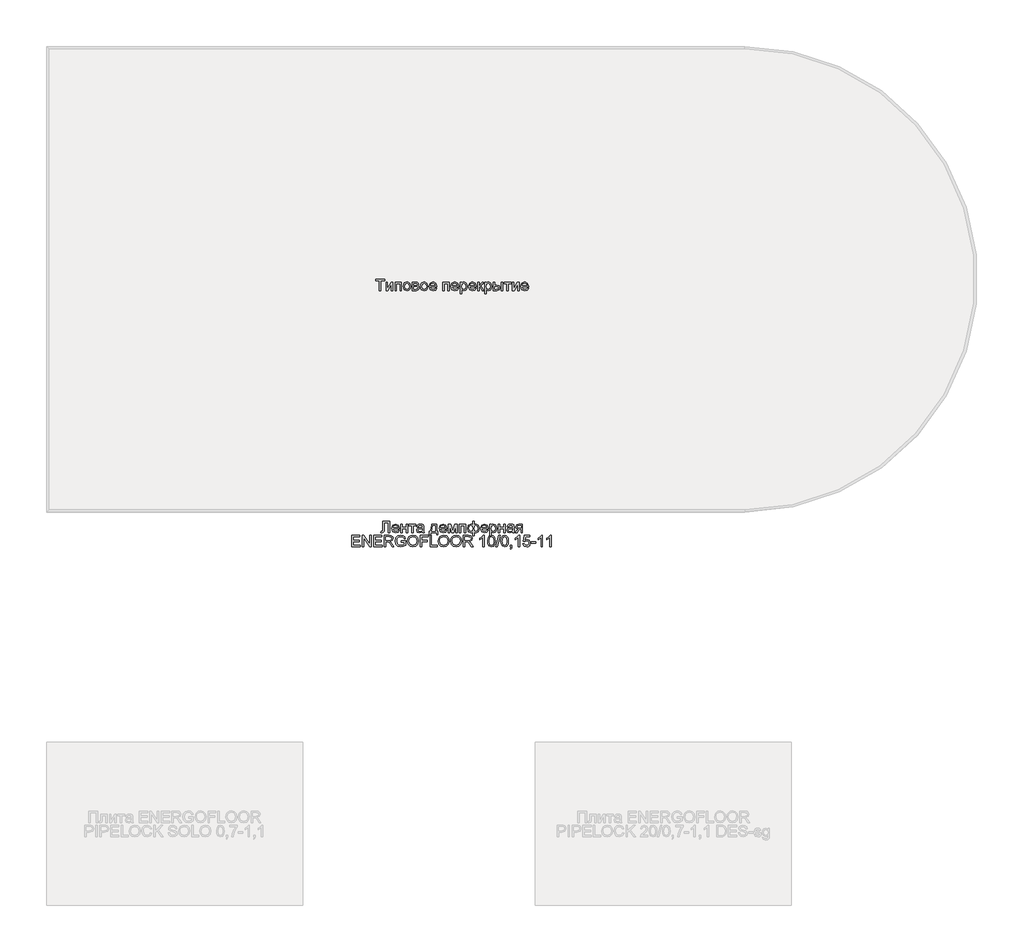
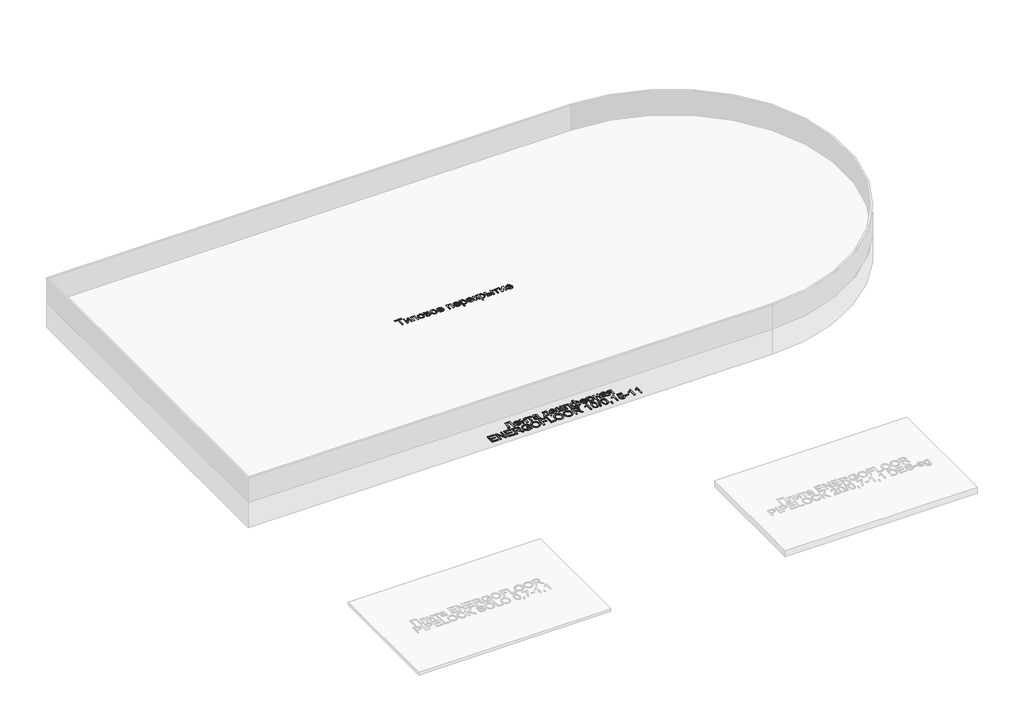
# One storey, part 7 of 7: 2 proxies.
"""IFC4 building model written with IfcOpenShell, lengths in millimetres."""

import ifcopenshell
import ifcopenshell.guid

model = None  # the IFC model being written
_history = None  # IfcOwnerHistory: only IFC2X3 demands one
_inside = {}  # id of a spatial element -> (the spatial element, [elements in it])
_under = {}  # id of a project, library or spatial element -> (it, [spatial elements below it])
_declared = {}  # id of a project -> (the project, [libraries it declares])
_typed = {}  # id of a type object -> (the type object, [elements of that type])
_made_of = {}  # id of a material, layer set ... -> (it, [elements and type objects made of it])


def new_model(schema):
    """Start an empty IFC model of exactly this schema.

    Asked for "IFC4X3", IfcOpenShell would pick the latest addendum, in which some entities
    have other attributes; the version numbers below select the first issue.
    IFC2X3 requires an IfcOwnerHistory on every rooted entity: one is made here for all.
    """
    global model, _history
    if schema == "IFC4X3":
        model = ifcopenshell.file(schema_version=(4, 3, 0, 0))
    else:
        model = ifcopenshell.file(schema=schema)
    _inside.clear()
    _under.clear()
    _declared.clear()
    _typed.clear()
    _made_of.clear()
    _history = None
    if model.schema == "IFC2X3":
        org = make("IfcOrganization", Name="unknown")
        user = make(
            "IfcPersonAndOrganization",
            ThePerson=make("IfcPerson", FamilyName="unknown"),
            TheOrganization=org,
        )
        app = make(
            "IfcApplication",
            ApplicationDeveloper=org,
            Version="unknown",
            ApplicationFullName="unknown",
            ApplicationIdentifier="unknown",
        )
        _history = make(
            "IfcOwnerHistory",
            OwningUser=user,
            OwningApplication=app,
            ChangeAction="ADDED",
            CreationDate=0,
        )
    return model


def make(cls, **values):
    """One entity of the class cls with the attributes given. An attribute that is None is left unset."""
    return model.create_entity(
        cls, **{name: value for name, value in values.items() if value is not None}
    )


def rooted(cls, **values):
    """An entity with a GlobalId (a new one), such as an element, a storey or a relation."""
    return make(cls, GlobalId=ifcopenshell.guid.new(), OwnerHistory=_history, **values)


def si_unit(unit_type, name, prefix=None):
    """IfcSIUnit, for example si_unit("LENGTHUNIT", "METRE", prefix="MILLI")."""
    return make("IfcSIUnit", UnitType=unit_type, Prefix=prefix, Name=name)


def assignment(units):
    """IfcUnitAssignment: the units of a project."""
    return None if units is None else make("IfcUnitAssignment", Units=units)


def point(xyz):
    """IfcCartesianPoint."""
    return None if xyz is None else make("IfcCartesianPoint", Coordinates=xyz)


def direction(xyz):
    """IfcDirection."""
    return None if xyz is None else make("IfcDirection", DirectionRatios=xyz)


def frame(location, z_axis=None, x_axis=None):
    """IfcAxis2Placement3D, a coordinate frame: its origin and axes. An axis left out is left unset."""
    return make(
        "IfcAxis2Placement3D",
        Location=point(location),
        Axis=direction(z_axis),
        RefDirection=direction(x_axis),
    )


def origin():
    """The frame at (0, 0, 0) with its axes left unset."""
    return frame((0.0, 0.0, 0.0))


def origin_with_axes():
    """The frame at (0, 0, 0) with the z axis (0, 0, 1) and the x axis (1, 0, 0) written out."""
    return frame((0.0, 0.0, 0.0), z_axis=(0.0, 0.0, 1.0), x_axis=(1.0, 0.0, 0.0))


def place(relative_to, where):
    """IfcLocalPlacement: puts the frame where relative to a parent placement (None: the world)."""
    return make(
        "IfcLocalPlacement", PlacementRelTo=relative_to, RelativePlacement=where
    )


def context(
    kind, dimensions, precision=None, world=None, true_north=None, identifier=None
):
    """IfcGeometricRepresentationContext, for example the 3D "Model" context."""
    return make(
        "IfcGeometricRepresentationContext",
        ContextIdentifier=identifier,
        ContextType=kind,
        CoordinateSpaceDimension=dimensions,
        Precision=precision,
        WorldCoordinateSystem=world,
        TrueNorth=true_north,
    )


def project(units=None, contexts=None):
    """IfcProject with its units and contexts."""
    return rooted(
        "IfcProject",
        Name="project",
        RepresentationContexts=contexts,
        UnitsInContext=assignment(units),
    )


def spatial(cls, under=None, at=None, **own):
    """A site, building, storey or space (cls), placed at a placement, below another one or the project."""
    s = rooted(cls, ObjectPlacement=at, **own)
    if under is not None:
        _under.setdefault(under.id(), (under, []))[1].append(s)
    return s


def polyline(points):
    """IfcPolyline through the points."""
    return make("IfcPolyline", Points=[point(p) for p in points])


def outline(outer, holes=None, kind="AREA"):
    """IfcArbitraryClosedProfileDef: a profile drawn as a closed curve; with holes, ...WithVoids."""
    if holes is None:
        return make("IfcArbitraryClosedProfileDef", ProfileType=kind, OuterCurve=outer)
    return make(
        "IfcArbitraryProfileDefWithVoids",
        ProfileType=kind,
        OuterCurve=outer,
        InnerCurves=holes,
    )


def extrude(swept, where, along, depth):
    """IfcExtrudedAreaSolid: the profile swept, set in the frame where, extruded along a direction by depth."""
    return make(
        "IfcExtrudedAreaSolid",
        SweptArea=swept,
        Position=where,
        ExtrudedDirection=direction(along),
        Depth=depth,
    )


def shape(context_of_items, identifier, shape_type, items):
    """IfcShapeRepresentation: the items that make up one representation, for example the "Body"."""
    return make(
        "IfcShapeRepresentation",
        ContextOfItems=context_of_items,
        RepresentationIdentifier=identifier,
        RepresentationType=shape_type,
        Items=items,
    )


def made_of(thing, what):
    """Note that an element or type object is made of a material, layer set ...; save() writes the relation."""
    if what is not None:
        _made_of.setdefault(what.id(), (what, []))[1].append(thing)
    return thing


def element(
    cls,
    number,
    at=None,
    inside=None,
    cuts=None,
    type_object=None,
    material=None,
    context=None,
    identifier="Body",
    shape_type=None,
    held_by="IfcProductDefinitionShape",
    body=None,
    shapes=None,
    **own,
):
    """One element of the class cls, such as IfcWall. Its Tag is "e" and its number.

    at: its placement. inside: the storey or other place that contains it. cuts: it is an
    opening in that element (IfcRelVoidsElement). A single representation is given by context,
    identifier, shape_type and body (its items); several are given by shapes. held_by: the class
    of the entity that holds the representations. save() writes the other relations.
    """
    e = rooted(cls, Tag="e%d" % number, ObjectPlacement=at, **own)
    if body is not None:
        shapes = [shape(context, identifier, shape_type, body)]
    if shapes is not None:
        e.Representation = make(held_by, Representations=shapes)
    if inside is not None:
        _inside.setdefault(inside.id(), (inside, []))[1].append(e)
    if cuts is not None:
        rooted(
            "IfcRelVoidsElement", RelatingBuildingElement=cuts, RelatedOpeningElement=e
        )
    if type_object is not None:
        _typed.setdefault(type_object.id(), (type_object, []))[1].append(e)
    return made_of(e, material)


def aggregate(whole, parts):
    """IfcRelAggregates: a whole, such as a stair, and the parts it consists of."""
    return rooted("IfcRelAggregates", RelatingObject=whole, RelatedObjects=parts)


def save(model, path):
    """Write the relations noted so far, then the file.

    IfcRelAggregates (storeys below a building ...), IfcRelContainedInSpatialStructure (elements
    in a storey), IfcRelDefinesByType, IfcRelAssociatesMaterial and IfcRelDeclares: one each for
    every whole, place, type object, material and project.
    """
    for whole, parts in _under.values():
        aggregate(whole, parts)
    for where, things in _inside.values():
        rooted(
            "IfcRelContainedInSpatialStructure",
            RelatedElements=things,
            RelatingStructure=where,
        )
    for kind, things in _typed.values():
        rooted("IfcRelDefinesByType", RelatedObjects=things, RelatingType=kind)
    for what, things in _made_of.values():
        rooted("IfcRelAssociatesMaterial", RelatedObjects=things, RelatingMaterial=what)
    for by, libraries in _declared.values():
        rooted("IfcRelDeclares", RelatingContext=by, RelatedDefinitions=libraries)
    model.write(path)


model = new_model("IFC4")

# Units and contexts
model_context = context("Model", 3, world=origin())
ifc_project = project(units=[si_unit("LENGTHUNIT", "METRE", prefix="MILLI")], contexts=[model_context])

# Site, building, storey
site = spatial("IfcSite", under=ifc_project)
building = spatial("IfcBuilding", under=site)
storey = spatial("IfcBuildingStorey", under=building, Name="Уровень 1", Elevation=0.0)

# Proxies
placement = place(None, origin())
element("IfcBuildingElementProxy", 1, Name="Текст модели ROLS ISOMARKET", ObjectType="Текст модели ROLS ISOMARKET", at=placement, inside=storey, context=model_context, shape_type="SweptSolid", body=[
    extrude(outline(polyline([(-15670.4197244, 12752.8888122), (-15640.4197244, 12752.8888122), (-15640.4197244, 12703.658043), (-15646.5735706, 12703.658043), (-15646.5735706, 12746.7349661), (-15664.2658783, 12746.7349661), (-15664.2658783, 12721.6147738), (-15664.9810225, 12710.4068411), (-15667.9798206, 12704.8659757), (-15673.7730898, 12702.8888122), (-15678.8812629, 12703.658043), (-15678.1120321, 12709.8118892), (-15675.1673206, 12709.0426584), (-15671.6036187, 12710.6953026), (-15670.4197244, 12718.4777545), (-15670.4197244, 12752.8888122)])), origin_with_axes(), (0.0, 0.0, 1.0), 2.0),
    extrude(outline(polyline([(-15605.1072244, 12714.4272738), (-15599.0735706, 12713.658043), (-15604.7165994, 12705.7133315), (-15615.2274167, 12702.8888122), (-15628.003859, 12707.7626103), (-15632.7274167, 12721.4344853), (-15627.9557821, 12735.5570815), (-15615.5759744, 12740.5811199), (-15603.550734, 12735.5691007), (-15598.8812629, 12721.470543), (-15598.9173206, 12719.8118892), (-15626.5735706, 12719.8118892), (-15623.0339071, 12711.8191007), (-15615.1072244, 12709.0426584), (-15609.0735706, 12710.3287161), (-15605.1072244, 12714.4272738)]), holes=[polyline([(-15626.5735706, 12725.9657353), (-15605.035109, 12725.9657353), (-15607.4990513, 12731.5426584), (-15615.6000129, 12734.4272738), (-15623.1781379, 12732.1255911), (-15626.5735706, 12725.9657353)])]), origin_with_axes(), (0.0, 0.0, 1.0), 2.0),
    extrude(outline(polyline([(-15592.7274167, 12739.8118892), (-15586.5735706, 12739.8118892), (-15586.5735706, 12725.9657353), (-15570.4197244, 12725.9657353), (-15570.4197244, 12739.8118892), (-15564.2658783, 12739.8118892), (-15564.2658783, 12703.658043), (-15570.4197244, 12703.658043), (-15570.4197244, 12719.8118892), (-15586.5735706, 12719.8118892), (-15586.5735706, 12703.658043), (-15592.7274167, 12703.658043), (-15592.7274167, 12739.8118892)])), origin_with_axes(), (0.0, 0.0, 1.0), 2.0),
    extrude(outline(polyline([(-15558.1120321, 12739.8118892), (-15528.8812629, 12739.8118892), (-15528.8812629, 12733.658043), (-15540.4197244, 12733.658043), (-15540.4197244, 12703.658043), (-15546.5735706, 12703.658043), (-15546.5735706, 12733.658043), (-15558.1120321, 12733.658043), (-15558.1120321, 12739.8118892)])), origin_with_axes(), (0.0, 0.0, 1.0), 2.0),
    extrude(outline(polyline([(-15500.4197244, 12708.2734276), (-15506.3872725, 12704.1027545), (-15512.9798206, 12702.8888122), (-15521.9161187, 12705.8094853), (-15525.035109, 12713.2734276), (-15523.8572244, 12718.1412161), (-15520.7622725, 12721.6748699), (-15516.4533783, 12723.6941007), (-15511.128859, 12724.6195815), (-15500.4557821, 12726.7349661), (-15502.114436, 12732.6484276), (-15508.9173206, 12734.4272738), (-15515.1432821, 12733.2433795), (-15518.1120321, 12729.0426584), (-15524.2658783, 12729.8118892), (-15521.6036187, 12735.8215045), (-15516.2430417, 12739.3431392), (-15508.1240513, 12740.5811199), (-15500.6661187, 12739.4873699), (-15496.4533783, 12736.7409757), (-15494.566359, 12732.564293), (-15494.2658783, 12727.1796776), (-15494.2658783, 12719.5234276), (-15493.9533783, 12708.8323218), (-15492.7274167, 12703.658043), (-15498.8812629, 12703.658043), (-15500.4197244, 12708.2734276)]), holes=[polyline([(-15500.4197244, 12720.5811199), (-15510.347609, 12718.6941007), (-15515.6420802, 12717.6965045), (-15518.0399167, 12716.0739084), (-15518.8812629, 12713.7061199), (-15517.0483302, 12710.376793), (-15511.6697244, 12709.0426584), (-15505.4437629, 12710.5150142), (-15501.4293398, 12714.0787161), (-15500.4557821, 12718.8383315), (-15500.4197244, 12720.5811199)])]), origin_with_axes(), (0.0, 0.0, 1.0), 2.0),
    extrude(outline(polyline([(-15461.1889552, 12739.8118892), (-15438.1120321, 12739.8118892), (-15438.1120321, 12709.8118892), (-15433.4966475, 12709.8118892), (-15433.4966475, 12693.658043), (-15439.6504937, 12693.658043), (-15439.6504937, 12703.658043), (-15465.035109, 12703.658043), (-15465.035109, 12693.658043), (-15471.1889552, 12693.658043), (-15471.1889552, 12709.8118892), (-15467.3428013, 12709.8118892), (-15462.5891956, 12721.548668), (-15461.1889552, 12739.8118892)]), holes=[polyline([(-15455.8043398, 12733.658043), (-15460.4197244, 12709.8118892), (-15444.2658783, 12709.8118892), (-15444.2658783, 12733.658043), (-15455.8043398, 12733.658043)])]), origin_with_axes(), (0.0, 0.0, 1.0), 2.0),
    extrude(outline(polyline([(-15401.2610706, 12714.4272738), (-15395.2274167, 12713.658043), (-15400.8704456, 12705.7133315), (-15411.3812629, 12702.8888122), (-15424.1577052, 12707.7626103), (-15428.8812629, 12721.4344853), (-15424.1096283, 12735.5570815), (-15411.7298206, 12740.5811199), (-15399.7045802, 12735.5691007), (-15395.035109, 12721.470543), (-15395.0711667, 12719.8118892), (-15422.7274167, 12719.8118892), (-15419.1877533, 12711.8191007), (-15411.2610706, 12709.0426584), (-15405.2274167, 12710.3287161), (-15401.2610706, 12714.4272738)]), holes=[polyline([(-15422.7274167, 12725.9657353), (-15401.1889552, 12725.9657353), (-15403.6528975, 12731.5426584), (-15411.753859, 12734.4272738), (-15419.331984, 12732.1255911), (-15422.7274167, 12725.9657353)])]), origin_with_axes(), (0.0, 0.0, 1.0), 2.0),
    extrude(outline(polyline([(-15388.8812629, 12739.8118892), (-15378.2923206, 12739.8118892), (-15370.1312629, 12710.8695815), (-15361.333186, 12739.8118892), (-15351.1889552, 12739.8118892), (-15351.1889552, 12703.658043), (-15357.3428013, 12703.658043), (-15357.3428013, 12732.7686199), (-15366.1889552, 12703.658043), (-15374.2658783, 12703.658043), (-15382.7274167, 12734.1628507), (-15382.7274167, 12703.658043), (-15388.8812629, 12703.658043), (-15388.8812629, 12739.8118892)])), origin_with_axes(), (0.0, 0.0, 1.0), 2.0),
    extrude(outline(polyline([(-15341.958186, 12739.8118892), (-15314.2658783, 12739.8118892), (-15314.2658783, 12703.658043), (-15320.4197244, 12703.658043), (-15320.4197244, 12733.658043), (-15335.8043398, 12733.658043), (-15335.8043398, 12703.658043), (-15341.958186, 12703.658043), (-15341.958186, 12739.8118892)])), origin_with_axes(), (0.0, 0.0, 1.0), 2.0),
    extrude(outline(polyline([(-15284.2658783, 12752.8888122), (-15278.1120321, 12752.8888122), (-15278.1120321, 12736.3383315), (-15274.1997725, 12739.5294372), (-15269.614436, 12740.5811199), (-15260.0891956, 12735.2325622), (-15256.5735706, 12721.7710238), (-15260.3596283, 12708.0991488), (-15269.770686, 12702.8888122), (-15273.5327052, 12703.4897738), (-15278.1120321, 12706.7710238), (-15278.1120321, 12689.8118892), (-15284.2658783, 12689.8118892), (-15284.2658783, 12706.7710238), (-15288.1961667, 12703.8623699), (-15292.847609, 12702.8888122), (-15302.4629937, 12707.8647738), (-15306.5735706, 12722.1075622), (-15302.8536187, 12735.2686199), (-15292.847609, 12740.5811199), (-15288.081984, 12739.5294372), (-15284.2658783, 12736.3383315), (-15284.2658783, 12752.8888122)]), holes=[polyline([(-15278.1480898, 12721.626793), (-15276.098811, 12711.6087642), (-15270.9605898, 12709.0426584), (-15265.1372725, 12712.1977065), (-15262.7274167, 12721.9993892), (-15264.9509744, 12731.3503507), (-15270.660109, 12734.4272738), (-15276.2670802, 12731.2241488), (-15278.1480898, 12721.626793)]), polyline([(-15300.4197244, 12722.2397738), (-15297.9557821, 12712.1316007), (-15291.8379937, 12709.0426584), (-15286.1228494, 12712.1135718), (-15284.2298206, 12721.3263122), (-15286.2190033, 12731.1520334), (-15292.222609, 12734.4272738), (-15298.1360706, 12731.2301584), (-15300.4197244, 12722.2397738)])]), origin_with_axes(), (0.0, 0.0, 1.0), 2.0),
    extrude(outline(polyline([(-15223.5687629, 12714.4272738), (-15217.535109, 12713.658043), (-15223.1781379, 12705.7133315), (-15233.6889552, 12702.8888122), (-15246.4653975, 12707.7626103), (-15251.1889552, 12721.4344853), (-15246.4173206, 12735.5570815), (-15234.0375129, 12740.5811199), (-15222.0122725, 12735.5691007), (-15217.3428013, 12721.470543), (-15217.378859, 12719.8118892), (-15245.035109, 12719.8118892), (-15241.4954456, 12711.8191007), (-15233.5687629, 12709.0426584), (-15227.535109, 12710.3287161), (-15223.5687629, 12714.4272738)]), holes=[polyline([(-15245.035109, 12725.9657353), (-15223.4966475, 12725.9657353), (-15225.9605898, 12731.5426584), (-15234.0615513, 12734.4272738), (-15241.6396763, 12732.1255911), (-15245.035109, 12725.9657353)])]), origin_with_axes(), (0.0, 0.0, 1.0), 2.0),
    extrude(outline(polyline([(-15211.1889552, 12689.8118892), (-15211.1889552, 12739.8118892), (-15205.035109, 12739.8118892), (-15205.035109, 12733.7782353), (-15200.7803013, 12738.8803988), (-15195.035109, 12740.5811199), (-15187.2346283, 12738.2013122), (-15182.1384744, 12731.4945815), (-15180.4197244, 12722.0114084), (-15182.3608302, 12712.0414565), (-15187.9978494, 12705.2505911), (-15195.7803013, 12702.8888122), (-15201.1348687, 12704.4693411), (-15205.035109, 12708.4657353), (-15205.035109, 12689.8118892), (-15211.1889552, 12689.8118892)]), holes=[polyline([(-15205.035109, 12721.4465045), (-15202.3728494, 12712.0715045), (-15195.9125129, 12709.0426584), (-15189.3199648, 12712.1796776), (-15186.5735706, 12721.9032353), (-15189.253859, 12731.3022738), (-15195.660109, 12734.4272738), (-15202.192561, 12731.1039565), (-15205.035109, 12721.4465045)])]), origin_with_axes(), (0.0, 0.0, 1.0), 2.0),
    extrude(outline(polyline([(-15173.4966475, 12739.8118892), (-15167.3428013, 12739.8118892), (-15167.3428013, 12725.9657353), (-15151.1889552, 12725.9657353), (-15151.1889552, 12739.8118892), (-15145.035109, 12739.8118892), (-15145.035109, 12703.658043), (-15151.1889552, 12703.658043), (-15151.1889552, 12719.8118892), (-15167.3428013, 12719.8118892), (-15167.3428013, 12703.658043), (-15173.4966475, 12703.658043), (-15173.4966475, 12739.8118892)])), origin_with_axes(), (0.0, 0.0, 1.0), 2.0),
    extrude(outline(polyline([(-15112.7274167, 12708.2734276), (-15118.6949648, 12704.1027545), (-15125.2875129, 12702.8888122), (-15134.223811, 12705.8094853), (-15137.3428013, 12713.2734276), (-15136.1649167, 12718.1412161), (-15133.0699648, 12721.6748699), (-15128.7610706, 12723.6941007), (-15123.4365513, 12724.6195815), (-15112.7634744, 12726.7349661), (-15114.4221283, 12732.6484276), (-15121.2250129, 12734.4272738), (-15127.4509744, 12733.2433795), (-15130.4197244, 12729.0426584), (-15136.5735706, 12729.8118892), (-15133.911311, 12735.8215045), (-15128.550734, 12739.3431392), (-15120.4317437, 12740.5811199), (-15112.973811, 12739.4873699), (-15108.7610706, 12736.7409757), (-15106.8740513, 12732.564293), (-15106.5735706, 12727.1796776), (-15106.5735706, 12719.5234276), (-15106.2610706, 12708.8323218), (-15105.035109, 12703.658043), (-15111.1889552, 12703.658043), (-15112.7274167, 12708.2734276)]), holes=[polyline([(-15112.7274167, 12720.5811199), (-15122.6553013, 12718.6941007), (-15127.9497725, 12717.6965045), (-15130.347609, 12716.0739084), (-15131.1889552, 12713.7061199), (-15129.3560225, 12710.376793), (-15123.9774167, 12709.0426584), (-15117.7514552, 12710.5150142), (-15113.7370321, 12714.0787161), (-15112.7634744, 12718.8383315), (-15112.7274167, 12720.5811199)])]), origin_with_axes(), (0.0, 0.0, 1.0), 2.0),
    extrude(outline(polyline([(-15070.4197244, 12739.8118892), (-15070.4197244, 12703.658043), (-15076.5735706, 12703.658043), (-15076.5735706, 12717.5041968), (-15079.926936, 12717.5041968), (-15084.4942437, 12716.7229468), (-15088.785109, 12711.470543), (-15093.6889552, 12703.658043), (-15100.8043398, 12703.658043), (-15094.6264552, 12713.5378507), (-15089.3860706, 12718.658043), (-15096.5495321, 12722.3960238), (-15098.8812629, 12729.3671776), (-15095.6961667, 12736.9152545), (-15086.4774167, 12739.8118892), (-15070.4197244, 12739.8118892)]), holes=[polyline([(-15076.5735706, 12733.658043), (-15084.6865513, 12733.658043), (-15091.255061, 12732.2337642), (-15092.7274167, 12728.8984276), (-15090.5579456, 12724.9260718), (-15082.8716475, 12723.658043), (-15076.5735706, 12723.658043), (-15076.5735706, 12733.658043)])]), origin_with_axes(), (0.0, 0.0, 1.0), 2.0),
    extrude(outline(polyline([(-15804.6504937, 12642.8888122), (-15804.6504937, 12692.1195815), (-15769.2658783, 12692.1195815), (-15769.2658783, 12685.9657353), (-15798.4966475, 12685.9657353), (-15798.4966475, 12671.3503507), (-15770.8043398, 12671.3503507), (-15770.8043398, 12665.1965045), (-15798.4966475, 12665.1965045), (-15798.4966475, 12649.0426584), (-15768.4966475, 12649.0426584), (-15768.4966475, 12642.8888122), (-15804.6504937, 12642.8888122)])), origin_with_axes(), (0.0, 0.0, 1.0), 2.0),
    extrude(outline(polyline([(-15759.2658783, 12642.8888122), (-15759.2658783, 12692.1195815), (-15752.6793398, 12692.1195815), (-15726.958186, 12653.1171776), (-15726.958186, 12692.1195815), (-15720.8043398, 12692.1195815), (-15720.8043398, 12642.8888122), (-15727.3908783, 12642.8888122), (-15753.1120321, 12681.9032353), (-15753.1120321, 12642.8888122), (-15759.2658783, 12642.8888122)])), origin_with_axes(), (0.0, 0.0, 1.0), 2.0),
    extrude(outline(polyline([(-15710.035109, 12642.8888122), (-15710.035109, 12692.1195815), (-15674.6504937, 12692.1195815), (-15674.6504937, 12685.9657353), (-15703.8812629, 12685.9657353), (-15703.8812629, 12671.3503507), (-15676.1889552, 12671.3503507), (-15676.1889552, 12665.1965045), (-15703.8812629, 12665.1965045), (-15703.8812629, 12649.0426584), (-15673.8812629, 12649.0426584), (-15673.8812629, 12642.8888122), (-15710.035109, 12642.8888122)])), origin_with_axes(), (0.0, 0.0, 1.0), 2.0),
    extrude(outline(polyline([(-15664.6504937, 12642.8888122), (-15664.6504937, 12692.1195815), (-15643.4365513, 12692.1195815), (-15633.5867917, 12690.7914565), (-15628.2021763, 12686.0919372), (-15626.1889552, 12678.6460238), (-15629.5242917, 12669.7758315), (-15639.8307821, 12665.1965045), (-15636.333186, 12662.564293), (-15631.3452052, 12656.2301584), (-15623.1360706, 12642.8888122), (-15630.2875129, 12642.8888122), (-15636.6937629, 12653.0931392), (-15641.3211667, 12659.8479468), (-15644.5723687, 12663.0390526), (-15647.4990513, 12664.2109276), (-15651.0687629, 12664.4272738), (-15658.4966475, 12664.4272738), (-15658.4966475, 12642.8888122), (-15664.6504937, 12642.8888122)]), holes=[polyline([(-15658.4966475, 12670.5811199), (-15644.722609, 12670.5811199), (-15637.6973687, 12671.4525142), (-15633.706984, 12674.2409757), (-15632.3428013, 12678.4176584), (-15634.9449648, 12683.8383315), (-15643.1721283, 12685.9657353), (-15658.4966475, 12685.9657353), (-15658.4966475, 12670.5811199)])]), origin_with_axes(), (0.0, 0.0, 1.0), 2.0),
    extrude(outline(polyline([(-15592.3428013, 12662.1195815), (-15592.3428013, 12668.2734276), (-15572.3428013, 12668.2734276), (-15572.3428013, 12649.8719853), (-15582.2165994, 12644.0666968), (-15592.6553013, 12642.1195815), (-15605.7983302, 12645.2145334), (-15614.7165994, 12654.1748699), (-15617.7274167, 12667.2638122), (-15614.7286187, 12680.6472257), (-15606.1048206, 12689.8719853), (-15593.1480898, 12692.8888122), (-15583.520686, 12691.1400142), (-15576.7718879, 12686.2722257), (-15573.051936, 12678.1291968), (-15578.7250129, 12676.5306392), (-15581.5315033, 12682.2217449), (-15586.3271763, 12685.5029949), (-15593.2442437, 12686.7349661), (-15601.1228494, 12685.4068411), (-15606.4834263, 12681.9212642), (-15609.6504937, 12677.1796776), (-15611.5735706, 12667.5162161), (-15609.2598687, 12656.7890526), (-15602.5290994, 12650.3707834), (-15593.1480898, 12648.2734276), (-15584.7286187, 12649.8539565), (-15578.4966475, 12653.2253507), (-15578.4966475, 12662.1195815), (-15592.3428013, 12662.1195815)])), origin_with_axes(), (0.0, 0.0, 1.0), 2.0),
    extrude(outline(polyline([(-15564.6504937, 12666.8551584), (-15563.0098687, 12677.7415767), (-15558.0879937, 12685.9777545), (-15550.5729696, 12691.1610478), (-15541.1528975, 12692.8888122), (-15528.9053013, 12689.6436199), (-15520.5879937, 12680.5931392), (-15517.7274167, 12667.4200622), (-15520.738234, 12654.0666968), (-15529.2718879, 12645.1484276), (-15541.1889552, 12642.1195815), (-15553.5687629, 12645.4669372), (-15561.8379937, 12654.6015526), (-15564.6504937, 12666.8551584)]), holes=[polyline([(-15558.4966475, 12666.7950622), (-15553.5747725, 12653.2253507), (-15541.2250129, 12648.2734276), (-15528.7670802, 12653.2734276), (-15523.8812629, 12667.4681392), (-15525.972609, 12677.6243892), (-15532.0843879, 12684.3491488), (-15541.1168398, 12686.7349661), (-15553.364436, 12682.1376103), (-15557.2135946, 12676.0032954), (-15558.4966475, 12666.7950622)])]), origin_with_axes(), (0.0, 0.0, 1.0), 2.0),
    extrude(outline(polyline([(-15509.2658783, 12642.8888122), (-15509.2658783, 12692.1195815), (-15476.1889552, 12692.1195815), (-15476.1889552, 12685.9657353), (-15503.1120321, 12685.9657353), (-15503.1120321, 12671.3503507), (-15480.035109, 12671.3503507), (-15480.035109, 12665.1965045), (-15503.1120321, 12665.1965045), (-15503.1120321, 12642.8888122), (-15509.2658783, 12642.8888122)])), origin_with_axes(), (0.0, 0.0, 1.0), 2.0),
    extrude(outline(polyline([(-15467.7274167, 12642.8888122), (-15467.7274167, 12692.1195815), (-15461.5735706, 12692.1195815), (-15461.5735706, 12649.0426584), (-15436.958186, 12649.0426584), (-15436.958186, 12642.8888122), (-15467.7274167, 12642.8888122)])), origin_with_axes(), (0.0, 0.0, 1.0), 2.0),
    extrude(outline(polyline([(-15432.3428013, 12666.8551584), (-15430.7021763, 12677.7415767), (-15425.7803013, 12685.9777545), (-15418.2652773, 12691.1610478), (-15408.8452052, 12692.8888122), (-15396.597609, 12689.6436199), (-15388.2803013, 12680.5931392), (-15385.4197244, 12667.4200622), (-15388.4305417, 12654.0666968), (-15396.9641956, 12645.1484276), (-15408.8812629, 12642.1195815), (-15421.2610706, 12645.4669372), (-15429.5303013, 12654.6015526), (-15432.3428013, 12666.8551584)]), holes=[polyline([(-15426.1889552, 12666.7950622), (-15421.2670802, 12653.2253507), (-15408.9173206, 12648.2734276), (-15396.4593879, 12653.2734276), (-15391.5735706, 12667.4681392), (-15393.6649167, 12677.6243892), (-15399.7766956, 12684.3491488), (-15408.8091475, 12686.7349661), (-15421.0567437, 12682.1376103), (-15424.9059023, 12676.0032954), (-15426.1889552, 12666.7950622)])]), origin_with_axes(), (0.0, 0.0, 1.0), 2.0),
    extrude(outline(polyline([(-15379.2658783, 12666.8551584), (-15377.6252533, 12677.7415767), (-15372.7033783, 12685.9777545), (-15365.1883542, 12691.1610478), (-15355.7682821, 12692.8888122), (-15343.520686, 12689.6436199), (-15335.2033783, 12680.5931392), (-15332.3428013, 12667.4200622), (-15335.3536187, 12654.0666968), (-15343.8872725, 12645.1484276), (-15355.8043398, 12642.1195815), (-15368.1841475, 12645.4669372), (-15376.4533783, 12654.6015526), (-15379.2658783, 12666.8551584)]), holes=[polyline([(-15373.1120321, 12666.7950622), (-15368.1901571, 12653.2253507), (-15355.8403975, 12648.2734276), (-15343.3824648, 12653.2734276), (-15338.4966475, 12667.4681392), (-15340.5879937, 12677.6243892), (-15346.6997725, 12684.3491488), (-15355.7322244, 12686.7349661), (-15367.9798206, 12682.1376103), (-15371.8289792, 12676.0032954), (-15373.1120321, 12666.7950622)])]), origin_with_axes(), (0.0, 0.0, 1.0), 2.0),
    extrude(outline(polyline([(-15323.8812629, 12642.8888122), (-15323.8812629, 12692.1195815), (-15302.6673206, 12692.1195815), (-15292.817561, 12690.7914565), (-15287.4329456, 12686.0919372), (-15285.4197244, 12678.6460238), (-15288.755061, 12669.7758315), (-15299.0615513, 12665.1965045), (-15295.5639552, 12662.564293), (-15290.5759744, 12656.2301584), (-15282.3668398, 12642.8888122), (-15289.5182821, 12642.8888122), (-15295.9245321, 12653.0931392), (-15300.551936, 12659.8479468), (-15303.8031379, 12663.0390526), (-15306.7298206, 12664.2109276), (-15310.2995321, 12664.4272738), (-15317.7274167, 12664.4272738), (-15317.7274167, 12642.8888122), (-15323.8812629, 12642.8888122)]), holes=[polyline([(-15317.7274167, 12670.5811199), (-15303.9533783, 12670.5811199), (-15296.9281379, 12671.4525142), (-15292.9377533, 12674.2409757), (-15291.5735706, 12678.4176584), (-15294.175734, 12683.8383315), (-15302.4028975, 12685.9657353), (-15317.7274167, 12685.9657353), (-15317.7274167, 12670.5811199)])]), origin_with_axes(), (0.0, 0.0, 1.0), 2.0),
    extrude(outline(polyline([(-15234.6504937, 12642.8888122), (-15240.8043398, 12642.8888122), (-15240.8043398, 12681.2541968), (-15246.6336667, 12677.1015526), (-15253.1120321, 12673.9945815), (-15253.1120321, 12679.8118892), (-15244.0915994, 12685.5691007), (-15238.6168398, 12692.1195815), (-15234.6504937, 12692.1195815), (-15234.6504937, 12642.8888122)])), origin_with_axes(), (0.0, 0.0, 1.0), 2.0),
    extrude(outline(polyline([(-15220.035109, 12667.1075622), (-15218.2262148, 12681.2722257), (-15212.8536187, 12689.439293), (-15203.8812629, 12692.1195815), (-15196.6937629, 12690.533043), (-15191.7298206, 12685.9597257), (-15188.8452052, 12678.6760718), (-15187.7274167, 12667.1075622), (-15189.5182821, 12653.0029949), (-15194.8728494, 12644.8178988), (-15203.8812629, 12642.1195815), (-15215.1312629, 12646.8070815), (-15218.8091475, 12655.1334036), (-15220.035109, 12667.1075622)]), holes=[polyline([(-15213.8812629, 12667.1195815), (-15210.9966475, 12651.8371295), (-15203.8812629, 12648.2734276), (-15196.7658783, 12651.8491488), (-15193.8812629, 12667.1195815), (-15196.6697244, 12682.2277545), (-15203.9533783, 12685.9657353), (-15210.9004937, 12682.6724661), (-15213.8812629, 12667.1195815)])]), origin_with_axes(), (0.0, 0.0, 1.0), 2.0),
    extrude(outline(polyline([(-15185.4197244, 12642.8888122), (-15171.5735706, 12692.1195815), (-15166.020686, 12692.1195815), (-15179.8668398, 12642.8888122), (-15185.4197244, 12642.8888122)])), origin_with_axes(), (0.0, 0.0, 1.0), 2.0),
    extrude(outline(polyline([(-15163.1120321, 12667.1075622), (-15161.3031379, 12681.2722257), (-15155.9305417, 12689.439293), (-15146.958186, 12692.1195815), (-15139.770686, 12690.533043), (-15134.8067437, 12685.9597257), (-15131.9221283, 12678.6760718), (-15130.8043398, 12667.1075622), (-15132.5952052, 12653.0029949), (-15137.9497725, 12644.8178988), (-15146.958186, 12642.1195815), (-15158.208186, 12646.8070815), (-15161.8860706, 12655.1334036), (-15163.1120321, 12667.1075622)]), holes=[polyline([(-15156.958186, 12667.1195815), (-15154.0735706, 12651.8371295), (-15146.958186, 12648.2734276), (-15139.8428013, 12651.8491488), (-15136.958186, 12667.1195815), (-15139.7466475, 12682.2277545), (-15147.0303013, 12685.9657353), (-15153.9774167, 12682.6724661), (-15156.958186, 12667.1195815)])]), origin_with_axes(), (0.0, 0.0, 1.0), 2.0),
    extrude(outline(polyline([(-15122.3428013, 12642.8888122), (-15122.3428013, 12649.0426584), (-15116.1889552, 12649.0426584), (-15116.1889552, 12642.8888122), (-15117.2947244, 12636.5967449), (-15120.8043398, 12632.8888122), (-15122.3428013, 12635.1965045), (-15120.083186, 12637.8527545), (-15119.2778975, 12642.8888122), (-15122.3428013, 12642.8888122)])), origin_with_axes(), (0.0, 0.0, 1.0), 2.0),
    extrude(outline(polyline([(-15083.1120321, 12642.8888122), (-15089.2658783, 12642.8888122), (-15089.2658783, 12681.2541968), (-15095.0952052, 12677.1015526), (-15101.5735706, 12673.9945815), (-15101.5735706, 12679.8118892), (-15092.5531379, 12685.5691007), (-15087.0783783, 12692.1195815), (-15083.1120321, 12692.1195815), (-15083.1120321, 12642.8888122)])), origin_with_axes(), (0.0, 0.0, 1.0), 2.0),
    extrude(outline(polyline([(-15068.4966475, 12655.9657353), (-15062.3428013, 12656.7349661), (-15059.2418398, 12650.3948218), (-15052.8115513, 12648.2734276), (-15045.0952052, 12651.2241488), (-15042.3428013, 12659.0546776), (-15044.9209263, 12666.3623699), (-15052.7153975, 12669.0426584), (-15058.1180417, 12667.9729468), (-15061.5735706, 12665.1965045), (-15067.7274167, 12665.9657353), (-15062.3428013, 12691.3503507), (-15038.4966475, 12691.3503507), (-15038.4966475, 12685.1965045), (-15057.3668398, 12685.1965045), (-15059.9990513, 12671.6388122), (-15050.9966475, 12675.1965045), (-15040.473811, 12670.7854468), (-15036.1889552, 12659.439293), (-15040.0471283, 12648.0210238), (-15045.5879937, 12643.594942), (-15052.8355898, 12642.1195815), (-15063.6949648, 12645.9116488), (-15068.4966475, 12655.9657353)])), origin_with_axes(), (0.0, 0.0, 1.0), 2.0),
    extrude(outline(polyline([(-15032.3428013, 12657.5041968), (-15032.3428013, 12663.658043), (-15013.1120321, 12663.658043), (-15013.1120321, 12657.5041968), (-15032.3428013, 12657.5041968)])), origin_with_axes(), (0.0, 0.0, 1.0), 2.0),
    extrude(outline(polyline([(-14984.6504937, 12642.8888122), (-14990.8043398, 12642.8888122), (-14990.8043398, 12681.2541968), (-14996.6336667, 12677.1015526), (-15003.1120321, 12673.9945815), (-15003.1120321, 12679.8118892), (-14994.0915994, 12685.5691007), (-14988.6168398, 12692.1195815), (-14984.6504937, 12692.1195815), (-14984.6504937, 12642.8888122)])), origin_with_axes(), (0.0, 0.0, 1.0), 2.0),
    extrude(outline(polyline([(-14946.958186, 12642.8888122), (-14953.1120321, 12642.8888122), (-14953.1120321, 12681.2541968), (-14958.941359, 12677.1015526), (-14965.4197244, 12673.9945815), (-14965.4197244, 12679.8118892), (-14956.3992917, 12685.5691007), (-14950.9245321, 12692.1195815), (-14946.958186, 12692.1195815), (-14946.958186, 12642.8888122)])), origin_with_axes(), (0.0, 0.0, 1.0), 2.0),
])
element("IfcBuildingElementProxy", 2, Name="Текст модели ROLS ISOMARKET", ObjectType="Текст модели ROLS ISOMARKET", at=placement, inside=storey, context=model_context, shape_type="SweptSolid", body=[
    extrude(outline(polyline([(-15685.035109, 13743.658043), (-15685.035109, 13786.7349661), (-15701.1889552, 13786.7349661), (-15701.1889552, 13792.8888122), (-15662.7274167, 13792.8888122), (-15662.7274167, 13786.7349661), (-15678.8812629, 13786.7349661), (-15678.8812629, 13743.658043), (-15685.035109, 13743.658043)])), origin_with_axes(), (0.0, 0.0, 1.0), 2.0),
    extrude(outline(polyline([(-15656.5735706, 13779.8118892), (-15650.4197244, 13779.8118892), (-15650.4197244, 13752.2397738), (-15635.2995321, 13779.8118892), (-15627.3428013, 13779.8118892), (-15627.3428013, 13743.658043), (-15633.4966475, 13743.658043), (-15633.4966475, 13771.0618892), (-15648.520686, 13743.658043), (-15656.5735706, 13743.658043), (-15656.5735706, 13779.8118892)])), origin_with_axes(), (0.0, 0.0, 1.0), 2.0),
    extrude(outline(polyline([(-15618.1120321, 13779.8118892), (-15590.4197244, 13779.8118892), (-15590.4197244, 13743.658043), (-15596.5735706, 13743.658043), (-15596.5735706, 13773.658043), (-15611.958186, 13773.658043), (-15611.958186, 13743.658043), (-15618.1120321, 13743.658043), (-15618.1120321, 13779.8118892)])), origin_with_axes(), (0.0, 0.0, 1.0), 2.0),
    extrude(outline(polyline([(-15582.7274167, 13761.7349661), (-15581.3962869, 13770.4519132), (-15577.4028975, 13776.5787161), (-15566.5615513, 13780.5811199), (-15554.9329456, 13775.7073218), (-15550.4197244, 13762.2397738), (-15552.4149167, 13751.2902545), (-15558.2262148, 13745.0943411), (-15566.5615513, 13742.8888122), (-15578.2622725, 13747.7445815), (-15582.7274167, 13761.7349661)]), holes=[polyline([(-15576.5735706, 13761.7469853), (-15573.7250129, 13752.2097257), (-15566.5615513, 13749.0426584), (-15559.4221283, 13752.2277545), (-15556.5735706, 13761.939293), (-15559.4401571, 13771.2602065), (-15566.5615513, 13774.4272738), (-15573.7250129, 13771.2722257), (-15576.5735706, 13761.7469853)])]), origin_with_axes(), (0.0, 0.0, 1.0), 2.0),
    extrude(outline(polyline([(-15543.4966475, 13779.8118892), (-15529.9389552, 13779.8118892), (-15522.505061, 13778.9885718), (-15518.3223687, 13775.9717449), (-15516.5735706, 13770.7133315), (-15517.6312629, 13766.4404949), (-15520.816359, 13763.3936199), (-15516.6817437, 13760.0582834), (-15515.035109, 13754.2590045), (-15518.5567437, 13746.2662161), (-15527.8596283, 13743.658043), (-15543.4966475, 13743.658043), (-15543.4966475, 13779.8118892)]), holes=[polyline([(-15537.3428013, 13749.8118892), (-15529.7947244, 13749.8118892), (-15523.1000129, 13750.923668), (-15521.1889552, 13754.7638122), (-15522.2406379, 13757.7265526), (-15524.9810225, 13759.4513122), (-15530.395686, 13759.8118892), (-15537.3428013, 13759.8118892), (-15537.3428013, 13749.8118892)]), polyline([(-15537.3428013, 13765.9657353), (-15531.2610706, 13765.9657353), (-15526.2430417, 13766.2782353), (-15523.8031379, 13767.5282353), (-15522.7274167, 13769.7878507), (-15524.614436, 13772.8046776), (-15531.0687629, 13773.658043), (-15537.3428013, 13773.658043), (-15537.3428013, 13765.9657353)])]), origin_with_axes(), (0.0, 0.0, 1.0), 2.0),
    extrude(outline(polyline([(-15508.8812629, 13761.7349661), (-15507.5501331, 13770.4519132), (-15503.5567437, 13776.5787161), (-15492.7153975, 13780.5811199), (-15481.0867917, 13775.7073218), (-15476.5735706, 13762.2397738), (-15478.5687629, 13751.2902545), (-15484.380061, 13745.0943411), (-15492.7153975, 13742.8888122), (-15504.4161187, 13747.7445815), (-15508.8812629, 13761.7349661)]), holes=[polyline([(-15502.7274167, 13761.7469853), (-15499.878859, 13752.2097257), (-15492.7153975, 13749.0426584), (-15485.5759744, 13752.2277545), (-15482.7274167, 13761.939293), (-15485.5940033, 13771.2602065), (-15492.7153975, 13774.4272738), (-15499.878859, 13771.2722257), (-15502.7274167, 13761.7469853)])]), origin_with_axes(), (0.0, 0.0, 1.0), 2.0),
    extrude(outline(polyline([(-15444.3379937, 13754.4272738), (-15438.3043398, 13753.658043), (-15443.9473687, 13745.7133315), (-15454.458186, 13742.8888122), (-15467.2346283, 13747.7626103), (-15471.958186, 13761.4344853), (-15467.1865513, 13775.5570815), (-15454.8067437, 13780.5811199), (-15442.7815033, 13775.5691007), (-15438.1120321, 13761.470543), (-15438.1480898, 13759.8118892), (-15465.8043398, 13759.8118892), (-15462.2646763, 13751.8191007), (-15454.3379937, 13749.0426584), (-15448.3043398, 13750.3287161), (-15444.3379937, 13754.4272738)]), holes=[polyline([(-15465.8043398, 13765.9657353), (-15444.2658783, 13765.9657353), (-15446.7298206, 13771.5426584), (-15454.8307821, 13774.4272738), (-15462.4089071, 13772.1255911), (-15465.8043398, 13765.9657353)])]), origin_with_axes(), (0.0, 0.0, 1.0), 2.0),
    extrude(outline(polyline([(-15412.7274167, 13779.8118892), (-15385.035109, 13779.8118892), (-15385.035109, 13743.658043), (-15391.1889552, 13743.658043), (-15391.1889552, 13773.658043), (-15406.5735706, 13773.658043), (-15406.5735706, 13743.658043), (-15412.7274167, 13743.658043), (-15412.7274167, 13779.8118892)])), origin_with_axes(), (0.0, 0.0, 1.0), 2.0),
    extrude(outline(polyline([(-15350.4918398, 13754.4272738), (-15344.458186, 13753.658043), (-15350.1012148, 13745.7133315), (-15360.6120321, 13742.8888122), (-15373.3884744, 13747.7626103), (-15378.1120321, 13761.4344853), (-15373.3403975, 13775.5570815), (-15360.9605898, 13780.5811199), (-15348.9353494, 13775.5691007), (-15344.2658783, 13761.470543), (-15344.301936, 13759.8118892), (-15371.958186, 13759.8118892), (-15368.4185225, 13751.8191007), (-15360.4918398, 13749.0426584), (-15354.458186, 13750.3287161), (-15350.4918398, 13754.4272738)]), holes=[polyline([(-15371.958186, 13765.9657353), (-15350.4197244, 13765.9657353), (-15352.8836667, 13771.5426584), (-15360.9846283, 13774.4272738), (-15368.5627533, 13772.1255911), (-15371.958186, 13765.9657353)])]), origin_with_axes(), (0.0, 0.0, 1.0), 2.0),
    extrude(outline(polyline([(-15338.1120321, 13729.8118892), (-15338.1120321, 13779.8118892), (-15331.958186, 13779.8118892), (-15331.958186, 13773.7782353), (-15327.7033783, 13778.8803988), (-15321.958186, 13780.5811199), (-15314.1577052, 13778.2013122), (-15309.0615513, 13771.4945815), (-15307.3428013, 13762.0114084), (-15309.2839071, 13752.0414565), (-15314.9209263, 13745.2505911), (-15322.7033783, 13742.8888122), (-15328.0579456, 13744.4693411), (-15331.958186, 13748.4657353), (-15331.958186, 13729.8118892), (-15338.1120321, 13729.8118892)]), holes=[polyline([(-15331.958186, 13761.4465045), (-15329.2959263, 13752.0715045), (-15322.8355898, 13749.0426584), (-15316.2430417, 13752.1796776), (-15313.4966475, 13761.9032353), (-15316.176936, 13771.3022738), (-15322.583186, 13774.4272738), (-15329.1156379, 13771.1039565), (-15331.958186, 13761.4465045)])]), origin_with_axes(), (0.0, 0.0, 1.0), 2.0),
    extrude(outline(polyline([(-15275.1072244, 13754.4272738), (-15269.0735706, 13753.658043), (-15274.7165994, 13745.7133315), (-15285.2274167, 13742.8888122), (-15298.003859, 13747.7626103), (-15302.7274167, 13761.4344853), (-15297.9557821, 13775.5570815), (-15285.5759744, 13780.5811199), (-15273.550734, 13775.5691007), (-15268.8812629, 13761.470543), (-15268.9173206, 13759.8118892), (-15296.5735706, 13759.8118892), (-15293.0339071, 13751.8191007), (-15285.1072244, 13749.0426584), (-15279.0735706, 13750.3287161), (-15275.1072244, 13754.4272738)]), holes=[polyline([(-15296.5735706, 13765.9657353), (-15275.035109, 13765.9657353), (-15277.4990513, 13771.5426584), (-15285.6000129, 13774.4272738), (-15293.1781379, 13772.1255911), (-15296.5735706, 13765.9657353)])]), origin_with_axes(), (0.0, 0.0, 1.0), 2.0),
    extrude(outline(polyline([(-15262.7274167, 13779.8118892), (-15256.5735706, 13779.8118892), (-15256.5735706, 13764.4272738), (-15252.4509744, 13765.533043), (-15249.0735706, 13771.9753507), (-15246.2670802, 13777.5342449), (-15243.7911187, 13779.3431392), (-15239.2899167, 13779.8118892), (-15238.1120321, 13773.6219853), (-15239.770686, 13773.658043), (-15242.7754937, 13773.0090045), (-15244.8908783, 13768.9585238), (-15247.3728494, 13764.5775142), (-15250.8524167, 13762.4320815), (-15243.160109, 13754.9921776), (-15236.5735706, 13743.658043), (-15243.5687629, 13743.658043), (-15250.0230898, 13754.751793), (-15253.2682821, 13759.4453026), (-15256.5735706, 13760.5811199), (-15256.5735706, 13743.658043), (-15262.7274167, 13743.658043), (-15262.7274167, 13779.8118892)])), origin_with_axes(), (0.0, 0.0, 1.0), 2.0),
    extrude(outline(polyline([(-15232.7274167, 13729.8118892), (-15232.7274167, 13779.8118892), (-15226.5735706, 13779.8118892), (-15226.5735706, 13773.7782353), (-15222.3187629, 13778.8803988), (-15216.5735706, 13780.5811199), (-15208.7730898, 13778.2013122), (-15203.676936, 13771.4945815), (-15201.958186, 13762.0114084), (-15203.8992917, 13752.0414565), (-15209.536311, 13745.2505911), (-15217.3187629, 13742.8888122), (-15222.6733302, 13744.4693411), (-15226.5735706, 13748.4657353), (-15226.5735706, 13729.8118892), (-15232.7274167, 13729.8118892)]), holes=[polyline([(-15226.5735706, 13761.4465045), (-15223.911311, 13752.0715045), (-15217.4509744, 13749.0426584), (-15210.8584263, 13752.1796776), (-15208.1120321, 13761.9032353), (-15210.7923206, 13771.3022738), (-15217.1985706, 13774.4272738), (-15223.7310225, 13771.1039565), (-15226.5735706, 13761.4465045)])]), origin_with_axes(), (0.0, 0.0, 1.0), 2.0),
    extrude(outline(polyline([(-15195.035109, 13779.8118892), (-15188.8812629, 13779.8118892), (-15188.8812629, 13766.7349661), (-15181.2730898, 13766.7349661), (-15169.8247725, 13763.6520334), (-15165.8043398, 13755.1484276), (-15169.175734, 13747.0294372), (-15179.9509744, 13743.658043), (-15195.035109, 13743.658043), (-15195.035109, 13779.8118892)]), holes=[polyline([(-15188.8812629, 13749.8118892), (-15182.5591475, 13749.8118892), (-15174.3980898, 13751.1039565), (-15171.958186, 13755.1364084), (-15173.7670802, 13758.9224661), (-15181.753859, 13760.5811199), (-15188.8812629, 13760.5811199), (-15188.8812629, 13749.8118892)])]), origin_with_axes(), (0.0, 0.0, 1.0), 2.0),
    extrude(outline(polyline([(-15161.1889552, 13779.8118892), (-15155.035109, 13779.8118892), (-15155.035109, 13743.658043), (-15161.1889552, 13743.658043), (-15161.1889552, 13779.8118892)])), origin_with_axes(), (0.0, 0.0, 1.0), 2.0),
    extrude(outline(polyline([(-15148.8812629, 13779.8118892), (-15119.6504937, 13779.8118892), (-15119.6504937, 13773.658043), (-15131.1889552, 13773.658043), (-15131.1889552, 13743.658043), (-15137.3428013, 13743.658043), (-15137.3428013, 13773.658043), (-15148.8812629, 13773.658043), (-15148.8812629, 13779.8118892)])), origin_with_axes(), (0.0, 0.0, 1.0), 2.0),
    extrude(outline(polyline([(-15114.2658783, 13779.8118892), (-15108.1120321, 13779.8118892), (-15108.1120321, 13752.2397738), (-15092.9918398, 13779.8118892), (-15085.035109, 13779.8118892), (-15085.035109, 13743.658043), (-15091.1889552, 13743.658043), (-15091.1889552, 13771.0618892), (-15106.2129937, 13743.658043), (-15114.2658783, 13743.658043), (-15114.2658783, 13779.8118892)])), origin_with_axes(), (0.0, 0.0, 1.0), 2.0),
    extrude(outline(polyline([(-15050.4918398, 13754.4272738), (-15044.458186, 13753.658043), (-15050.1012148, 13745.7133315), (-15060.6120321, 13742.8888122), (-15073.3884744, 13747.7626103), (-15078.1120321, 13761.4344853), (-15073.3403975, 13775.5570815), (-15060.9605898, 13780.5811199), (-15048.9353494, 13775.5691007), (-15044.2658783, 13761.470543), (-15044.301936, 13759.8118892), (-15071.958186, 13759.8118892), (-15068.4185225, 13751.8191007), (-15060.4918398, 13749.0426584), (-15054.458186, 13750.3287161), (-15050.4918398, 13754.4272738)]), holes=[polyline([(-15071.958186, 13765.9657353), (-15050.4197244, 13765.9657353), (-15052.8836667, 13771.5426584), (-15060.9846283, 13774.4272738), (-15068.5627533, 13772.1255911), (-15071.958186, 13765.9657353)])]), origin_with_axes(), (0.0, 0.0, 1.0), 2.0),
])

save(model, "model.ifc")
